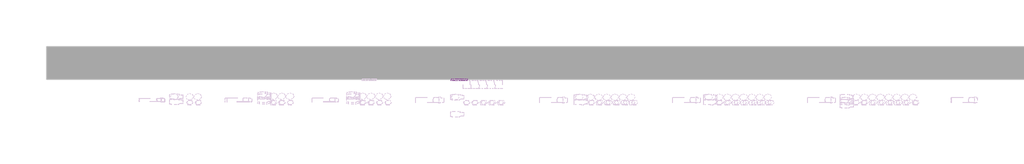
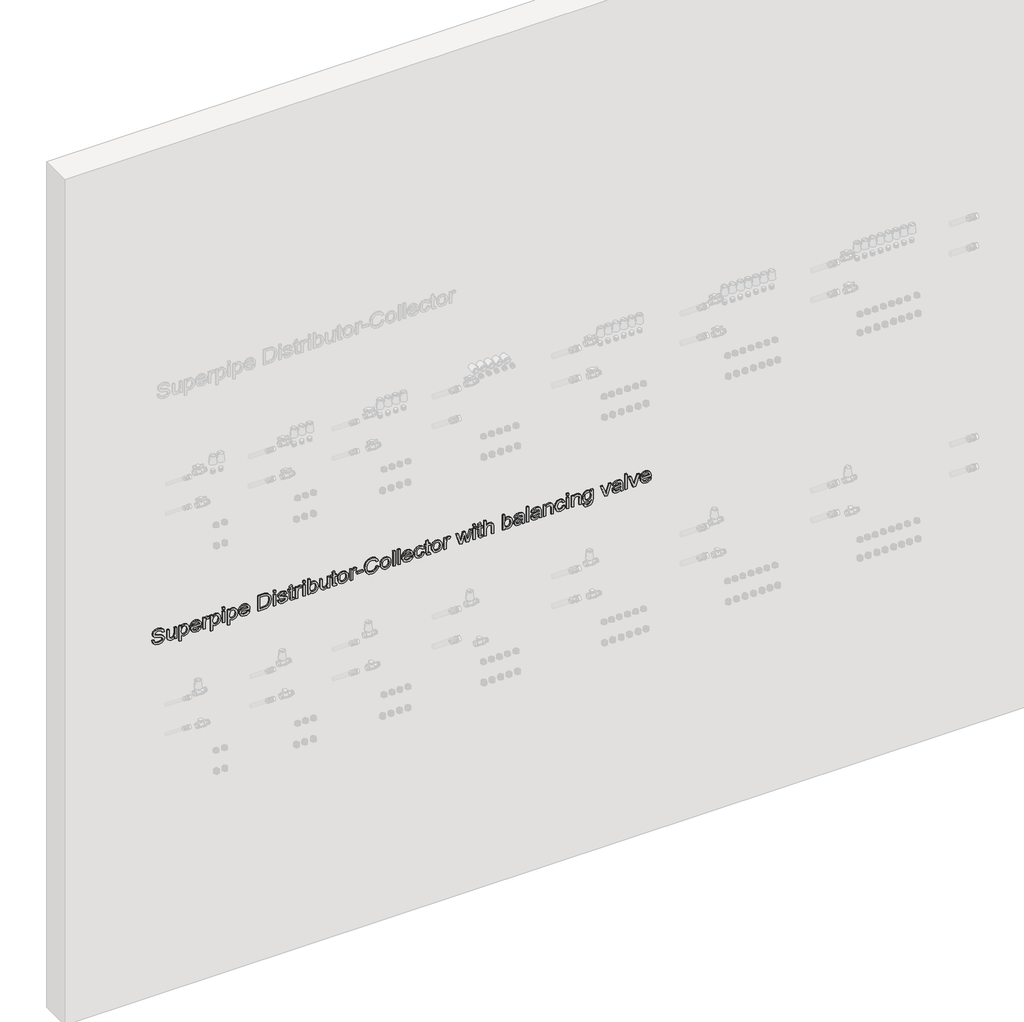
# One storey, part 11 of 26: 1 proxy.
"""IFC4 building model written with IfcOpenShell, lengths in millimetres."""

import ifcopenshell
import ifcopenshell.guid

model = None  # the IFC model being written
_history = None  # IfcOwnerHistory: only IFC2X3 demands one
_inside = {}  # id of a spatial element -> (the spatial element, [elements in it])
_under = {}  # id of a project, library or spatial element -> (it, [spatial elements below it])
_declared = {}  # id of a project -> (the project, [libraries it declares])
_typed = {}  # id of a type object -> (the type object, [elements of that type])
_made_of = {}  # id of a material, layer set ... -> (it, [elements and type objects made of it])


def new_model(schema):
    """Start an empty IFC model of exactly this schema.

    Asked for "IFC4X3", IfcOpenShell would pick the latest addendum, in which some entities
    have other attributes; the version numbers below select the first issue.
    IFC2X3 requires an IfcOwnerHistory on every rooted entity: one is made here for all.
    """
    global model, _history
    if schema == "IFC4X3":
        model = ifcopenshell.file(schema_version=(4, 3, 0, 0))
    else:
        model = ifcopenshell.file(schema=schema)
    _inside.clear()
    _under.clear()
    _declared.clear()
    _typed.clear()
    _made_of.clear()
    _history = None
    if model.schema == "IFC2X3":
        org = make("IfcOrganization", Name="unknown")
        user = make(
            "IfcPersonAndOrganization",
            ThePerson=make("IfcPerson", FamilyName="unknown"),
            TheOrganization=org,
        )
        app = make(
            "IfcApplication",
            ApplicationDeveloper=org,
            Version="unknown",
            ApplicationFullName="unknown",
            ApplicationIdentifier="unknown",
        )
        _history = make(
            "IfcOwnerHistory",
            OwningUser=user,
            OwningApplication=app,
            ChangeAction="ADDED",
            CreationDate=0,
        )
    return model


def make(cls, **values):
    """One entity of the class cls with the attributes given. An attribute that is None is left unset."""
    return model.create_entity(
        cls, **{name: value for name, value in values.items() if value is not None}
    )


def rooted(cls, **values):
    """An entity with a GlobalId (a new one), such as an element, a storey or a relation."""
    return make(cls, GlobalId=ifcopenshell.guid.new(), OwnerHistory=_history, **values)


def si_unit(unit_type, name, prefix=None):
    """IfcSIUnit, for example si_unit("LENGTHUNIT", "METRE", prefix="MILLI")."""
    return make("IfcSIUnit", UnitType=unit_type, Prefix=prefix, Name=name)


def assignment(units):
    """IfcUnitAssignment: the units of a project."""
    return None if units is None else make("IfcUnitAssignment", Units=units)


def point(xyz):
    """IfcCartesianPoint."""
    return None if xyz is None else make("IfcCartesianPoint", Coordinates=xyz)


def direction(xyz):
    """IfcDirection."""
    return None if xyz is None else make("IfcDirection", DirectionRatios=xyz)


def frame(location, z_axis=None, x_axis=None):
    """IfcAxis2Placement3D, a coordinate frame: its origin and axes. An axis left out is left unset."""
    return make(
        "IfcAxis2Placement3D",
        Location=point(location),
        Axis=direction(z_axis),
        RefDirection=direction(x_axis),
    )


def origin():
    """The frame at (0, 0, 0) with its axes left unset."""
    return frame((0.0, 0.0, 0.0))


def place(relative_to, where):
    """IfcLocalPlacement: puts the frame where relative to a parent placement (None: the world)."""
    return make(
        "IfcLocalPlacement", PlacementRelTo=relative_to, RelativePlacement=where
    )


def context(
    kind, dimensions, precision=None, world=None, true_north=None, identifier=None
):
    """IfcGeometricRepresentationContext, for example the 3D "Model" context."""
    return make(
        "IfcGeometricRepresentationContext",
        ContextIdentifier=identifier,
        ContextType=kind,
        CoordinateSpaceDimension=dimensions,
        Precision=precision,
        WorldCoordinateSystem=world,
        TrueNorth=true_north,
    )


def project(units=None, contexts=None):
    """IfcProject with its units and contexts."""
    return rooted(
        "IfcProject",
        Name="project",
        RepresentationContexts=contexts,
        UnitsInContext=assignment(units),
    )


def spatial(cls, under=None, at=None, **own):
    """A site, building, storey or space (cls), placed at a placement, below another one or the project."""
    s = rooted(cls, ObjectPlacement=at, **own)
    if under is not None:
        _under.setdefault(under.id(), (under, []))[1].append(s)
    return s


def polyline(points):
    """IfcPolyline through the points."""
    return make("IfcPolyline", Points=[point(p) for p in points])


def outline(outer, holes=None, kind="AREA"):
    """IfcArbitraryClosedProfileDef: a profile drawn as a closed curve; with holes, ...WithVoids."""
    if holes is None:
        return make("IfcArbitraryClosedProfileDef", ProfileType=kind, OuterCurve=outer)
    return make(
        "IfcArbitraryProfileDefWithVoids",
        ProfileType=kind,
        OuterCurve=outer,
        InnerCurves=holes,
    )


def extrude(swept, where, along, depth):
    """IfcExtrudedAreaSolid: the profile swept, set in the frame where, extruded along a direction by depth."""
    return make(
        "IfcExtrudedAreaSolid",
        SweptArea=swept,
        Position=where,
        ExtrudedDirection=direction(along),
        Depth=depth,
    )


def shape(context_of_items, identifier, shape_type, items):
    """IfcShapeRepresentation: the items that make up one representation, for example the "Body"."""
    return make(
        "IfcShapeRepresentation",
        ContextOfItems=context_of_items,
        RepresentationIdentifier=identifier,
        RepresentationType=shape_type,
        Items=items,
    )


def made_of(thing, what):
    """Note that an element or type object is made of a material, layer set ...; save() writes the relation."""
    if what is not None:
        _made_of.setdefault(what.id(), (what, []))[1].append(thing)
    return thing


def element(
    cls,
    number,
    at=None,
    inside=None,
    cuts=None,
    type_object=None,
    material=None,
    context=None,
    identifier="Body",
    shape_type=None,
    held_by="IfcProductDefinitionShape",
    body=None,
    shapes=None,
    **own,
):
    """One element of the class cls, such as IfcWall. Its Tag is "e" and its number.

    at: its placement. inside: the storey or other place that contains it. cuts: it is an
    opening in that element (IfcRelVoidsElement). A single representation is given by context,
    identifier, shape_type and body (its items); several are given by shapes. held_by: the class
    of the entity that holds the representations. save() writes the other relations.
    """
    e = rooted(cls, Tag="e%d" % number, ObjectPlacement=at, **own)
    if body is not None:
        shapes = [shape(context, identifier, shape_type, body)]
    if shapes is not None:
        e.Representation = make(held_by, Representations=shapes)
    if inside is not None:
        _inside.setdefault(inside.id(), (inside, []))[1].append(e)
    if cuts is not None:
        rooted(
            "IfcRelVoidsElement", RelatingBuildingElement=cuts, RelatedOpeningElement=e
        )
    if type_object is not None:
        _typed.setdefault(type_object.id(), (type_object, []))[1].append(e)
    return made_of(e, material)


def aggregate(whole, parts):
    """IfcRelAggregates: a whole, such as a stair, and the parts it consists of."""
    return rooted("IfcRelAggregates", RelatingObject=whole, RelatedObjects=parts)


def save(model, path):
    """Write the relations noted so far, then the file.

    IfcRelAggregates (storeys below a building ...), IfcRelContainedInSpatialStructure (elements
    in a storey), IfcRelDefinesByType, IfcRelAssociatesMaterial and IfcRelDeclares: one each for
    every whole, place, type object, material and project.
    """
    for whole, parts in _under.values():
        aggregate(whole, parts)
    for where, things in _inside.values():
        rooted(
            "IfcRelContainedInSpatialStructure",
            RelatedElements=things,
            RelatingStructure=where,
        )
    for kind, things in _typed.values():
        rooted("IfcRelDefinesByType", RelatedObjects=things, RelatingType=kind)
    for what, things in _made_of.values():
        rooted("IfcRelAssociatesMaterial", RelatedObjects=things, RelatingMaterial=what)
    for by, libraries in _declared.values():
        rooted("IfcRelDeclares", RelatingContext=by, RelatedDefinitions=libraries)
    model.write(path)


model = new_model("IFC4")

# Units and contexts
model_context = context("Model", 3, world=origin())
ifc_project = project(units=[si_unit("LENGTHUNIT", "METRE", prefix="MILLI")], contexts=[model_context])

# Site, building, storey
site = spatial("IfcSite", under=ifc_project)
building = spatial("IfcBuilding", under=site)
storey = spatial("IfcBuildingStorey", under=building, Name="Superpipe UFH", Elevation=0.0)

# Proxy
placement = place(None, origin())
element("IfcBuildingElementProxy", 1, Name="600mm Arial 2", ObjectType="600mm Arial 2", at=placement, inside=storey, context=model_context, shape_type="SweptSolid", body=[
    extrude(outline(polyline([(2402.2660737, 943.6052989), (2383.0871591, 949.025427), (2370.3829675, 963.2134093), (2366.1645873, 985.6419483), (2370.0763992, 1004.6369219), (2381.0392826, 1017.5863682), (2396.0611307, 1022.0867913), (2410.2613758, 1018.1749794), (2420.4394443, 1006.0226108), (2426.7424891, 983.8025383), (2433.7567725, 963.2992484), (2442.4633131, 959.3015974), (2452.8866363, 964.9424547), (2457.2031183, 982.9196215), (2452.8375853, 1000.8477374), (2447.42972, 1005.6547288), (2439.93719, 1007.9601226), (2439.93719, 1020.5171614), (2455.658014, 1015.5384917), (2466.179439, 1002.2947399), (2469.7601571, 982.4291122), (2466.3388546, 963.8142832), (2456.3079388, 951.0978289), (2442.0954311, 946.7445586), (2429.6119687, 950.2639631), (2420.267766, 960.9448037), (2414.0750858, 980.6264904), (2409.2803571, 998.9102256), (2403.5781862, 1007.4450878), (2395.7422997, 1009.5297525), (2387.317802, 1006.7461121), (2381.0147571, 998.2725634), (2378.721626, 985.1514389), (2381.7505211, 970.0928026), (2389.6967722, 960.2090397), (2402.2660737, 956.1623377), (2402.2660737, 943.6052989)])), frame((0.0, -1221.7394303, 0.0), z_axis=(0.0, 1.0, 0.0), x_axis=(0.0, 0.0, 1.0)), (0.0, 0.0, 1.0), 10.0),
    extrude(outline(polyline([(2367.7342171, 1086.4416149), (2367.7342171, 1098.9986537), (2441.5068199, 1098.9986537), (2441.5068199, 1086.4416149), (2403.1244651, 1086.4416149), (2389.1326865, 1084.4060012), (2381.5175292, 1077.477557), (2378.721626, 1066.9929201), (2381.4562155, 1057.6364547), (2388.973271, 1052.6700478), (2401.7755644, 1051.9097583), (2441.5068199, 1051.9097583), (2441.5068199, 1039.3527196), (2395.864927, 1039.3527196), (2384.190805, 1040.0884835), (2374.9447042, 1043.8286172), (2368.6661848, 1051.971072), (2366.1645873, 1063.780084), (2369.7269113, 1076.6069029), (2380.4138832, 1086.4416149), (2367.7342171, 1086.4416149)])), frame((0.0, -1221.7394303, 0.0), z_axis=(0.0, 1.0, 0.0), x_axis=(0.0, 0.0, 1.0)), (0.0, 0.0, 1.0), 10.0),
    extrude(outline(polyline([(2339.4808799, 1116.264582), (2339.4808799, 1128.8216208), (2377.5444037, 1128.8216208), (2369.3896861, 1136.7801346), (2366.1645873, 1147.7062299), (2370.9838414, 1163.5864693), (2384.8407299, 1175.088913), (2405.1846042, 1179.0497759), (2424.5351972, 1175.5426342), (2438.2204074, 1165.1438364), (2443.0764497, 1149.2268088), (2439.6060962, 1137.5036359), (2429.1950358, 1128.8216208), (2441.5068199, 1128.8216208), (2441.5068199, 1116.264582), (2339.4808799, 1116.264582)]), holes=[polyline([(2404.0319073, 1128.8216208), (2415.4209207, 1130.271689), (2423.7381195, 1134.6218936), (2428.8240881, 1140.8544277), (2430.519411, 1147.9514845), (2428.9252557, 1155.0209502), (2424.1427897, 1161.0235581), (2416.1597504, 1165.1254423), (2404.963875, 1166.4927371), (2393.2836217, 1165.0917198), (2385.1227728, 1160.888668), (2380.3219127, 1154.7235789), (2378.721626, 1147.4364497), (2380.2667304, 1140.2658165), (2384.9020436, 1134.2540116), (2392.7747183, 1130.1797185), (2404.0319073, 1128.8216208)])]), frame((0.0, -1221.7394303, 0.0), z_axis=(0.0, 1.0, 0.0), x_axis=(0.0, 0.0, 1.0)), (0.0, 0.0, 1.0), 10.0),
    extrude(outline(polyline([(2389.709035, 1244.8270766), (2381.3458509, 1236.7336727), (2378.721626, 1224.4218886), (2380.1379717, 1215.5344727), (2384.3870088, 1208.2473435), (2391.2970589, 1203.1981632), (2400.6964439, 1201.0245937), (2400.6964439, 1257.4576918), (2404.0809582, 1257.5312682), (2420.5436775, 1255.1492322), (2432.8493303, 1248.0031245), (2440.5196699, 1237.1046204), (2443.0764497, 1223.4653954), (2440.5135385, 1209.3877777), (2432.8248048, 1198.2041651), (2420.4946266, 1190.9017075), (2404.0073818, 1188.4675549), (2388.0566317, 1190.877182), (2376.1096639, 1198.1060632), (2368.6508564, 1209.44296), (2366.1645873, 1224.1766339), (2367.6054584, 1236.0622881), (2371.9280719, 1245.6241543), (2378.8626475, 1252.702817), (2388.1394051, 1257.1388607), (2389.709035, 1244.8270766)]), holes=[polyline([(2413.2534827, 1201.0245937), (2420.3321454, 1203.0877986), (2425.8227842, 1207.9530379), (2430.519411, 1223.4163445), (2429.047883, 1232.6256571), (2424.633299, 1239.9465088), (2413.2534827, 1244.9742294), (2413.2534827, 1201.0245937)])]), frame((0.0, -1221.7394303, 0.0), z_axis=(0.0, 1.0, 0.0), x_axis=(0.0, 0.0, 1.0)), (0.0, 0.0, 1.0), 10.0),
    extrude(outline(polyline([(2367.7342171, 1270.0883069), (2367.7342171, 1282.6453457), (2406.5089794, 1282.6453457), (2421.1752083, 1284.6809594), (2428.0423389, 1289.2059079), (2430.519411, 1296.3060305), (2427.944237, 1305.1351983), (2439.2014261, 1309.3290531), (2443.0764497, 1296.7229634), (2440.6484286, 1288.8748142), (2430.5929874, 1281.0757159), (2441.5068199, 1281.0757159), (2441.5068199, 1270.0883069), (2367.7342171, 1270.0883069)])), frame((0.0, -1221.7394303, 0.0), z_axis=(0.0, 1.0, 0.0), x_axis=(0.0, 0.0, 1.0)), (0.0, 0.0, 1.0), 10.0),
    extrude(outline(polyline([(2339.4808799, 1317.1772023), (2339.4808799, 1329.7342411), (2377.5444037, 1329.7342411), (2369.3896861, 1337.6927549), (2366.1645873, 1348.6188502), (2370.9838414, 1364.4990896), (2384.8407299, 1376.0015333), (2405.1846042, 1379.9623962), (2424.5351972, 1376.4552545), (2438.2204074, 1366.0564567), (2443.0764497, 1350.1394291), (2439.6060962, 1338.4162562), (2429.1950358, 1329.7342411), (2441.5068199, 1329.7342411), (2441.5068199, 1317.1772023), (2339.4808799, 1317.1772023)]), holes=[polyline([(2404.0319073, 1329.7342411), (2415.4209207, 1331.1843093), (2423.7381195, 1335.5345139), (2428.8240881, 1341.767048), (2430.519411, 1348.8641048), (2428.9252557, 1355.9335705), (2424.1427897, 1361.9361784), (2416.1597504, 1366.0380626), (2404.963875, 1367.4053574), (2393.2836217, 1366.0043401), (2385.1227728, 1361.8012883), (2380.3219127, 1355.6361992), (2378.721626, 1348.34907), (2380.2667304, 1341.1784368), (2384.9020436, 1335.1666319), (2392.7747183, 1331.0923388), (2404.0319073, 1329.7342411)])]), frame((0.0, -1221.7394303, 0.0), z_axis=(0.0, 1.0, 0.0), x_axis=(0.0, 0.0, 1.0)), (0.0, 0.0, 1.0), 10.0),
    extrude(outline(polyline([(1406.6461035, -1221.7394303), (1394.0890648, -1221.7394303), (1394.0890648, -1211.7394303), (1406.6461035, -1211.7394303), (1406.6461035, -1221.7394303)])), frame((0.0, 0.0, 2455.6334885), z_axis=(0.0, 0.0, 1.0), x_axis=(1.0, 0.0, 0.0)), (0.0, 0.0, 1.0), 12.5570388),
    extrude(outline(polyline([(1406.6461035, -1221.7394303), (1394.0890648, -1221.7394303), (1394.0890648, -1211.7394303), (1406.6461035, -1211.7394303), (1406.6461035, -1221.7394303)])), frame((0.0, 0.0, 2367.7342171), z_axis=(0.0, 0.0, 1.0), x_axis=(1.0, 0.0, 0.0)), (0.0, 0.0, 1.0), 73.7726028),
    extrude(outline(polyline([(2339.4808799, 1425.4816617), (2339.4808799, 1438.0387005), (2377.5444037, 1438.0387005), (2369.3896861, 1445.9972143), (2366.1645873, 1456.9233096), (2370.9838414, 1472.803549), (2384.8407299, 1484.3059927), (2405.1846042, 1488.2668555), (2424.5351972, 1484.7597139), (2438.2204074, 1474.3609161), (2443.0764497, 1458.4438885), (2439.6060962, 1446.7207156), (2429.1950358, 1438.0387005), (2441.5068199, 1438.0387005), (2441.5068199, 1425.4816617), (2339.4808799, 1425.4816617)]), holes=[polyline([(2404.0319073, 1438.0387005), (2415.4209207, 1439.4887687), (2423.7381195, 1443.8389733), (2428.8240881, 1450.0715074), (2430.519411, 1457.1685642), (2428.9252557, 1464.2380299), (2424.1427897, 1470.2406378), (2416.1597504, 1474.342522), (2404.963875, 1475.7098168), (2393.2836217, 1474.3087995), (2385.1227728, 1470.1057477), (2380.3219127, 1463.9406586), (2378.721626, 1456.6535294), (2380.2667304, 1449.4828962), (2384.9020436, 1443.4710913), (2392.7747183, 1439.3967982), (2404.0319073, 1438.0387005)])]), frame((0.0, -1221.7394303, 0.0), z_axis=(0.0, 1.0, 0.0), x_axis=(0.0, 0.0, 1.0)), (0.0, 0.0, 1.0), 10.0),
    extrude(outline(polyline([(2389.709035, 1554.0441563), (2381.3458509, 1545.9507524), (2378.721626, 1533.6389683), (2380.1379717, 1524.7515524), (2384.3870088, 1517.4644232), (2391.2970589, 1512.4152428), (2400.6964439, 1510.2416734), (2400.6964439, 1566.6747714), (2404.0809582, 1566.7483478), (2420.5436775, 1564.3663119), (2432.8493303, 1557.2202042), (2440.5196699, 1546.3217001), (2443.0764497, 1532.6824751), (2440.5135385, 1518.6048574), (2432.8248048, 1507.4212448), (2420.4946266, 1500.1187872), (2404.0073818, 1497.6846346), (2388.0566317, 1500.0942617), (2376.1096639, 1507.3231429), (2368.6508564, 1518.6600397), (2366.1645873, 1533.3937136), (2367.6054584, 1545.2793677), (2371.9280719, 1554.8412339), (2378.8626475, 1561.9198967), (2388.1394051, 1566.3559404), (2389.709035, 1554.0441563)]), holes=[polyline([(2413.2534827, 1510.2416734), (2420.3321454, 1512.3048782), (2425.8227842, 1517.1701176), (2430.519411, 1532.6334242), (2429.047883, 1541.8427368), (2424.633299, 1549.1635885), (2413.2534827, 1554.1913091), (2413.2534827, 1510.2416734)])]), frame((0.0, -1221.7394303, 0.0), z_axis=(0.0, 1.0, 0.0), x_axis=(0.0, 0.0, 1.0)), (0.0, 0.0, 1.0), 10.0),
    extrude(outline(polyline([(2367.7342171, 1620.1157626), (2367.7342171, 1656.4379783), (2369.4509998, 1672.5879979), (2374.4909831, 1684.5932136), (2383.6021938, 1693.765738), (2398.2316345, 1700.6328686), (2418.5019325, 1703.3061445), (2442.3897367, 1699.3575444), (2459.5575631, 1687.4626932), (2466.7435248, 1672.6983625), (2468.1905273, 1654.7702466), (2468.1905273, 1620.1157626), (2367.7342171, 1620.1157626)]), holes=[polyline([(2380.2912559, 1632.6728014), (2455.6334885, 1632.6728014), (2455.6334885, 1654.5495174), (2453.6224003, 1672.3550059), (2442.4878385, 1685.3902913), (2432.3833464, 1689.4094021), (2418.6981362, 1690.7491057), (2399.7031625, 1688.0145162), (2387.2319629, 1680.3748334), (2382.1061404, 1671.0551562), (2380.2912559, 1654.8928739), (2380.2912559, 1632.6728014)])]), frame((0.0, -1221.7394303, 0.0), z_axis=(0.0, 1.0, 0.0), x_axis=(0.0, 0.0, 1.0)), (0.0, 0.0, 1.0), 10.0),
    extrude(outline(polyline([(1731.5594817, -1221.7394303), (1719.0024429, -1221.7394303), (1719.0024429, -1211.7394303), (1731.5594817, -1211.7394303), (1731.5594817, -1221.7394303)])), frame((0.0, 0.0, 2455.6334885), z_axis=(0.0, 0.0, 1.0), x_axis=(1.0, 0.0, 0.0)), (0.0, 0.0, 1.0), 12.5570388),
    extrude(outline(polyline([(1731.5594817, -1221.7394303), (1719.0024429, -1221.7394303), (1719.0024429, -1211.7394303), (1731.5594817, -1211.7394303), (1731.5594817, -1221.7394303)])), frame((0.0, 0.0, 2367.7342171), z_axis=(0.0, 0.0, 1.0), x_axis=(1.0, 0.0, 0.0)), (0.0, 0.0, 1.0), 73.7726028),
    extrude(outline(polyline([(2389.709035, 1745.6861503), (2379.4696528, 1749.1319783), (2372.0997501, 1755.3001331), (2367.648378, 1764.5401026), (2366.1645873, 1777.2013746), (2369.2425333, 1792.7505202), (2377.9613366, 1803.2596825), (2389.9788151, 1806.9017143), (2400.8926476, 1803.7992428), (2407.5880999, 1795.239855), (2413.4987373, 1776.8089671), (2416.1720132, 1765.9932364), (2418.9433908, 1761.3088724), (2422.5976853, 1759.8128189), (2428.1404407, 1763.4180625), (2430.519411, 1775.435541), (2428.0300761, 1786.4842636), (2421.1016319, 1791.2054158), (2422.6712617, 1803.7624546), (2433.9407135, 1799.4459725), (2440.6116404, 1789.7338879), (2443.0764497, 1774.4545223), (2441.5436081, 1763.6510544), (2437.8279999, 1755.6680151), (2430.6788265, 1749.512123), (2421.3223611, 1747.2557801), (2411.1933435, 1750.063946), (2404.0196446, 1758.3167655), (2397.8760153, 1777.2259), (2394.2952972, 1790.1508208), (2388.6544399, 1794.3446755), (2381.6892075, 1790.1753462), (2378.721626, 1777.3730528), (2381.9589876, 1764.0557246), (2391.2786648, 1758.2431891), (2389.709035, 1745.6861503)])), frame((0.0, -1221.7394303, 0.0), z_axis=(0.0, 1.0, 0.0), x_axis=(0.0, 0.0, 1.0)), (0.0, 0.0, 1.0), 10.0),
    extrude(outline(polyline([(2378.2065912, 1847.7120903), (2378.721626, 1842.2429113), (2379.5677546, 1837.9632174), (2381.8608857, 1835.8172391), (2388.3356089, 1835.1550515), (2428.9497811, 1835.1550515), (2428.9497811, 1847.7120903), (2441.5068199, 1847.7120903), (2441.5068199, 1835.1550515), (2466.8171012, 1835.1550515), (2459.4349358, 1822.5980128), (2441.5068199, 1822.5980128), (2441.5068199, 1813.1802337), (2428.9497811, 1813.1802337), (2428.9497811, 1822.5980128), (2387.9677269, 1822.5980128), (2373.7184309, 1824.1185917), (2368.2492519, 1829.3670415), (2366.1645873, 1839.8884665), (2367.3663351, 1849.2817201), (2378.2065912, 1847.7120903)])), frame((0.0, -1221.7394303, 0.0), z_axis=(0.0, 1.0, 0.0), x_axis=(0.0, 0.0, 1.0)), (0.0, 0.0, 1.0), 10.0),
    extrude(outline(polyline([(2367.7342171, 1860.2691291), (2367.7342171, 1872.8261678), (2406.5089794, 1872.8261678), (2421.1752083, 1874.8617815), (2428.0423389, 1879.3867301), (2430.519411, 1886.4868526), (2427.944237, 1895.3160205), (2439.2014261, 1899.5098752), (2443.0764497, 1886.9037855), (2440.6484286, 1879.0556363), (2430.5929874, 1871.256538), (2441.5068199, 1871.256538), (2441.5068199, 1860.2691291), (2367.7342171, 1860.2691291)])), frame((0.0, -1221.7394303, 0.0), z_axis=(0.0, 1.0, 0.0), x_axis=(0.0, 0.0, 1.0)), (0.0, 0.0, 1.0), 10.0),
    extrude(outline(polyline([(1919.9150632, -1221.7394303), (1907.3580244, -1221.7394303), (1907.3580244, -1211.7394303), (1919.9150632, -1211.7394303), (1919.9150632, -1221.7394303)])), frame((0.0, 0.0, 2367.7342171), z_axis=(0.0, 0.0, 1.0), x_axis=(1.0, 0.0, 0.0)), (0.0, 0.0, 1.0), 73.7726028),
    extrude(outline(polyline([(1919.9150632, -1221.7394303), (1907.3580244, -1221.7394303), (1907.3580244, -1211.7394303), (1919.9150632, -1211.7394303), (1919.9150632, -1221.7394303)])), frame((0.0, 0.0, 2455.6334885), z_axis=(0.0, 0.0, 1.0), x_axis=(1.0, 0.0, 0.0)), (0.0, 0.0, 1.0), 12.5570388),
    extrude(outline(polyline([(2367.7342171, 1951.3076601), (2379.4819155, 1951.3076601), (2369.4939193, 1959.7873401), (2366.1645873, 1970.9525587), (2368.7458926, 1982.6542718), (2376.4898086, 1992.5472318), (2388.9610082, 1999.2886694), (2405.7241645, 2001.5358152), (2420.6969617, 1999.3653114), (2432.6531265, 1993.3688349), (2440.3418602, 1983.6076993), (2443.0764497, 1971.0261351), (2440.0414233, 1960.1000398), (2430.9363439, 1951.3076601), (2468.1905273, 1951.3076601), (2468.1905273, 1938.7506214), (2367.7342171, 1938.7506214), (2367.7342171, 1951.3076601)]), holes=[polyline([(2405.1355533, 1951.3076601), (2416.018729, 1952.7240058), (2423.9956369, 1956.9730429), (2428.8884675, 1963.1657231), (2430.519411, 1970.4129984), (2428.9436498, 1977.5468434), (2424.2163661, 1983.5463856), (2416.1842759, 1987.6206787), (2404.6940949, 1988.9787764), (2393.3694608, 1987.5624308), (2385.2454001, 1983.3133937), (2380.3525696, 1977.1207135), (2378.721626, 1969.8734382), (2380.9350494, 1961.3201818), (2387.5753194, 1954.7412254), (2405.1355533, 1951.3076601)])]), frame((0.0, -1221.7394303, 0.0), z_axis=(0.0, 1.0, 0.0), x_axis=(0.0, 0.0, 1.0)), (0.0, 0.0, 1.0), 10.0),
    extrude(outline(polyline([(2367.7342171, 2062.7513792), (2367.7342171, 2075.308418), (2441.5068199, 2075.308418), (2441.5068199, 2062.7513792), (2403.1244651, 2062.7513792), (2389.1326865, 2060.7157655), (2381.5175292, 2053.7873213), (2378.721626, 2043.3026844), (2381.4562155, 2033.946219), (2388.973271, 2028.9798121), (2401.7755644, 2028.2195226), (2441.5068199, 2028.2195226), (2441.5068199, 2015.6624838), (2395.864927, 2015.6624838), (2384.190805, 2016.3982478), (2374.9447042, 2020.1383814), (2368.6661848, 2028.2808363), (2366.1645873, 2040.0898483), (2369.7269113, 2052.9166672), (2380.4138832, 2062.7513792), (2367.7342171, 2062.7513792)])), frame((0.0, -1221.7394303, 0.0), z_axis=(0.0, 1.0, 0.0), x_axis=(0.0, 0.0, 1.0)), (0.0, 0.0, 1.0), 10.0),
    extrude(outline(polyline([(2378.2065912, 2119.2580537), (2378.721626, 2113.7888747), (2379.5677546, 2109.5091808), (2381.8608857, 2107.3632025), (2388.3356089, 2106.7010149), (2428.9497811, 2106.7010149), (2428.9497811, 2119.2580537), (2441.5068199, 2119.2580537), (2441.5068199, 2106.7010149), (2466.8171012, 2106.7010149), (2459.4349358, 2094.1439761), (2441.5068199, 2094.1439761), (2441.5068199, 2084.7261971), (2428.9497811, 2084.7261971), (2428.9497811, 2094.1439761), (2387.9677269, 2094.1439761), (2373.7184309, 2095.664555), (2368.2492519, 2100.9130048), (2366.1645873, 2111.4344299), (2367.3663351, 2120.8276835), (2378.2065912, 2119.2580537)])), frame((0.0, -1221.7394303, 0.0), z_axis=(0.0, 1.0, 0.0), x_axis=(0.0, 0.0, 1.0)), (0.0, 0.0, 1.0), 10.0),
    extrude(outline(polyline([(2404.6205185, 2128.6758327), (2388.1639306, 2130.9536354), (2376.0728757, 2137.7870435), (2368.6416594, 2148.3115342), (2366.1645873, 2161.662585), (2370.6650103, 2178.6709959), (2383.3078882, 2190.5290589), (2405.6505881, 2194.6002863), (2421.2886386, 2192.2979581), (2433.1313731, 2185.3909737), (2440.5901806, 2174.8542202), (2443.0764497, 2161.662585), (2441.0347047, 2149.6083183), (2434.9094694, 2139.5406143), (2422.407613, 2131.3920281), (2404.6205185, 2128.6758327)]), holes=[polyline([(2404.645044, 2141.2328715), (2416.0034006, 2142.6860054), (2424.081476, 2147.045407), (2428.9099272, 2153.6059693), (2430.519411, 2161.662585), (2428.9037959, 2169.6364272), (2424.0569506, 2176.1939238), (2416.0708456, 2180.5809166), (2405.0374514, 2182.0432475), (2393.4246431, 2180.5901136), (2385.2208746, 2176.230712), (2380.3464382, 2169.6824125), (2378.721626, 2161.662585), (2380.3372411, 2153.6059693), (2385.1840864, 2147.045407), (2393.280556, 2142.6860054), (2404.645044, 2141.2328715)])]), frame((0.0, -1221.7394303, 0.0), z_axis=(0.0, 1.0, 0.0), x_axis=(0.0, 0.0, 1.0)), (0.0, 0.0, 1.0), 10.0),
    extrude(outline(polyline([(2367.7342171, 2208.7269549), (2367.7342171, 2221.2839937), (2406.5089794, 2221.2839937), (2421.1752083, 2223.3196074), (2428.0423389, 2227.8445559), (2430.519411, 2234.9446784), (2427.944237, 2243.7738463), (2439.2014261, 2247.967701), (2443.0764497, 2235.3616113), (2440.6484286, 2227.5134621), (2430.5929874, 2219.7143638), (2441.5068199, 2219.7143638), (2441.5068199, 2208.7269549), (2367.7342171, 2208.7269549)])), frame((0.0, -1221.7394303, 0.0), z_axis=(0.0, 1.0, 0.0), x_axis=(0.0, 0.0, 1.0)), (0.0, 0.0, 1.0), 10.0),
    extrude(outline(polyline([(2288.778077, -1221.7394303), (2249.5373309, -1221.7394303), (2249.5373309, -1211.7394303), (2288.778077, -1211.7394303), (2288.778077, -1221.7394303)])), frame((0.0, 0.0, 2397.5571842), z_axis=(0.0, 0.0, 1.0), x_axis=(1.0, 0.0, 0.0)), (0.0, 0.0, 1.0), 12.5570388),
    extrude(outline(polyline([(2403.4432961, 2375.1077186), (2392.6888791, 2371.0456882), (2384.9510945, 2364.4514035), (2380.2789932, 2355.7172717), (2378.721626, 2345.2357006), (2383.2956255, 2327.9084586), (2397.1157258, 2316.1117093), (2418.7471871, 2312.3225247), (2437.411067, 2315.5230981), (2451.8320412, 2326.6208716), (2457.2031183, 2346.2657702), (2452.3593387, 2363.2373929), (2436.9205577, 2373.5380887), (2439.9126646, 2386.0951275), (2452.5187543, 2380.5493064), (2461.9365334, 2371.9071452), (2467.8042512, 2360.5242632), (2469.7601571, 2346.7562795), (2468.2487753, 2334.137927), (2463.7146297, 2322.6232206), (2456.2680849, 2312.9142016), (2446.0195057, 2305.7129116), (2433.3704964, 2301.2523424), (2418.7226617, 2299.765486), (2391.867276, 2305.0261985), (2380.8369475, 2311.4886589), (2372.7619377, 2320.354615), (2367.8139249, 2331.921438), (2366.1645873, 2346.4864994), (2368.3442881, 2360.8338972), (2374.8833906, 2372.7777993), (2385.5734282, 2381.8706159), (2400.2059346, 2387.6647573), (2403.4432961, 2375.1077186)])), frame((0.0, -1221.7394303, 0.0), z_axis=(0.0, 1.0, 0.0), x_axis=(0.0, 0.0, 1.0)), (0.0, 0.0, 1.0), 10.0),
    extrude(outline(polyline([(2404.6205185, 2400.2217961), (2388.1639306, 2402.4995988), (2376.0728757, 2409.3330069), (2368.6416594, 2419.8574976), (2366.1645873, 2433.2085484), (2370.6650103, 2450.2169593), (2383.3078882, 2462.0750222), (2405.6505881, 2466.1462497), (2421.2886386, 2463.8439215), (2433.1313731, 2456.936937), (2440.5901806, 2446.4001836), (2443.0764497, 2433.2085484), (2441.0347047, 2421.1542816), (2434.9094694, 2411.0865777), (2422.407613, 2402.9379915), (2404.6205185, 2400.2217961)]), holes=[polyline([(2404.645044, 2412.7788349), (2416.0034006, 2414.2319688), (2424.081476, 2418.5913704), (2428.9099272, 2425.1519327), (2430.519411, 2433.2085484), (2428.9037959, 2441.1823906), (2424.0569506, 2447.7398872), (2416.0708456, 2452.12688), (2405.0374514, 2453.5892109), (2393.4246431, 2452.136077), (2385.2208746, 2447.7766754), (2380.3464382, 2441.2283758), (2378.721626, 2433.2085484), (2380.3372411, 2425.1519327), (2385.1840864, 2418.5913704), (2393.280556, 2414.2319688), (2404.645044, 2412.7788349)])]), frame((0.0, -1221.7394303, 0.0), z_axis=(0.0, 1.0, 0.0), x_axis=(0.0, 0.0, 1.0)), (0.0, 0.0, 1.0), 10.0),
    extrude(outline(polyline([(2492.829957, -1221.7394303), (2480.2729183, -1221.7394303), (2480.2729183, -1211.7394303), (2492.829957, -1211.7394303), (2492.829957, -1221.7394303)])), frame((0.0, 0.0, 2367.7342171), z_axis=(0.0, 0.0, 1.0), x_axis=(1.0, 0.0, 0.0)), (0.0, 0.0, 1.0), 100.4563101),
    extrude(outline(polyline([(2524.222554, -1221.7394303), (2511.6655152, -1221.7394303), (2511.6655152, -1211.7394303), (2524.222554, -1211.7394303), (2524.222554, -1221.7394303)])), frame((0.0, 0.0, 2367.7342171), z_axis=(0.0, 0.0, 1.0), x_axis=(1.0, 0.0, 0.0)), (0.0, 0.0, 1.0), 100.4563101),
    extrude(outline(polyline([(2389.709035, 2594.7087442), (2381.3458509, 2586.6153403), (2378.721626, 2574.3035562), (2380.1379717, 2565.4161404), (2384.3870088, 2558.1290112), (2391.2970589, 2553.0798308), (2400.6964439, 2550.9062613), (2400.6964439, 2607.3393594), (2404.0809582, 2607.4129358), (2420.5436775, 2605.0308999), (2432.8493303, 2597.8847921), (2440.5196699, 2586.986288), (2443.0764497, 2573.347063), (2440.5135385, 2559.2694454), (2432.8248048, 2548.0858327), (2420.4946266, 2540.7833751), (2404.0073818, 2538.3492226), (2388.0566317, 2540.7588496), (2376.1096639, 2547.9877308), (2368.6508564, 2559.3246277), (2366.1645873, 2574.0583016), (2367.6054584, 2585.9439557), (2371.9280719, 2595.5058219), (2378.8626475, 2602.5844846), (2388.1394051, 2607.0205283), (2389.709035, 2594.7087442)]), holes=[polyline([(2413.2534827, 2550.9062613), (2420.3321454, 2552.9694662), (2425.8227842, 2557.8347056), (2430.519411, 2573.2980121), (2429.047883, 2582.5073247), (2424.633299, 2589.8281764), (2413.2534827, 2594.855897), (2413.2534827, 2550.9062613)])]), frame((0.0, -1221.7394303, 0.0), z_axis=(0.0, 1.0, 0.0), x_axis=(0.0, 0.0, 1.0)), (0.0, 0.0, 1.0), 10.0),
    extrude(outline(polyline([(2394.4179245, 2667.05887), (2382.5721243, 2661.037868), (2378.721626, 2649.2043305), (2380.2636647, 2641.1937), (2384.8897808, 2634.8691954), (2392.9249367, 2630.7581141), (2404.6940949, 2629.3877536), (2416.3069032, 2630.7887709), (2424.314468, 2634.9918227), (2428.9681752, 2641.4328233), (2430.519411, 2649.547687), (2427.3678885, 2659.6644418), (2417.9623722, 2665.4892401), (2419.532002, 2678.0462789), (2429.5261296, 2674.628042), (2436.9450831, 2668.5426607), (2441.5436081, 2660.059915), (2443.0764497, 2649.4495851), (2438.6128149, 2632.3675978), (2425.2096475, 2620.6689504), (2404.3507384, 2616.8307149), (2388.0505003, 2619.0778607), (2376.0360875, 2625.8192983), (2368.6324623, 2636.2640813), (2366.1645873, 2649.6212634), (2367.9334865, 2660.4983077), (2373.2401843, 2669.5359421), (2381.6800104, 2676.1148984), (2392.8482947, 2679.6159087), (2394.4179245, 2667.05887)])), frame((0.0, -1221.7394303, 0.0), z_axis=(0.0, 1.0, 0.0), x_axis=(0.0, 0.0, 1.0)), (0.0, 0.0, 1.0), 10.0),
    extrude(outline(polyline([(2378.2065912, 2717.287025), (2378.721626, 2711.817846), (2379.5677546, 2707.5381522), (2381.8608857, 2705.3921738), (2388.3356089, 2704.7299863), (2428.9497811, 2704.7299863), (2428.9497811, 2717.287025), (2441.5068199, 2717.287025), (2441.5068199, 2704.7299863), (2466.8171012, 2704.7299863), (2459.4349358, 2692.1729475), (2441.5068199, 2692.1729475), (2441.5068199, 2682.7551684), (2428.9497811, 2682.7551684), (2428.9497811, 2692.1729475), (2387.9677269, 2692.1729475), (2373.7184309, 2693.6935264), (2368.2492519, 2698.9419762), (2366.1645873, 2709.4634013), (2367.3663351, 2718.8566549), (2378.2065912, 2717.287025)])), frame((0.0, -1221.7394303, 0.0), z_axis=(0.0, 1.0, 0.0), x_axis=(0.0, 0.0, 1.0)), (0.0, 0.0, 1.0), 10.0),
    extrude(outline(polyline([(2404.6205185, 2726.7048041), (2388.1639306, 2728.9826068), (2376.0728757, 2735.8160148), (2368.6416594, 2746.3405056), (2366.1645873, 2759.6915563), (2370.6650103, 2776.6999672), (2383.3078882, 2788.5580302), (2405.6505881, 2792.6292576), (2421.2886386, 2790.3269295), (2433.1313731, 2783.419945), (2440.5901806, 2772.8831915), (2443.0764497, 2759.6915563), (2441.0347047, 2747.6372896), (2434.9094694, 2737.5695857), (2422.407613, 2729.4209995), (2404.6205185, 2726.7048041)]), holes=[polyline([(2404.645044, 2739.2618429), (2416.0034006, 2740.7149768), (2424.081476, 2745.0743784), (2428.9099272, 2751.6349406), (2430.519411, 2759.6915563), (2428.9037959, 2767.6653986), (2424.0569506, 2774.2228951), (2416.0708456, 2778.6098879), (2405.0374514, 2780.0722189), (2393.4246431, 2778.619085), (2385.2208746, 2774.2596833), (2380.3464382, 2767.7113838), (2378.721626, 2759.6915563), (2380.3372411, 2751.6349406), (2385.1840864, 2745.0743784), (2393.280556, 2740.7149768), (2404.645044, 2739.2618429)])]), frame((0.0, -1221.7394303, 0.0), z_axis=(0.0, 1.0, 0.0), x_axis=(0.0, 0.0, 1.0)), (0.0, 0.0, 1.0), 10.0),
    extrude(outline(polyline([(2367.7342171, 2806.7559263), (2367.7342171, 2819.312965), (2406.5089794, 2819.312965), (2421.1752083, 2821.3485787), (2428.0423389, 2825.8735273), (2430.519411, 2832.9736498), (2427.944237, 2841.8028177), (2439.2014261, 2845.9966724), (2443.0764497, 2833.3905827), (2440.6484286, 2825.5424335), (2430.5929874, 2817.7433352), (2441.5068199, 2817.7433352), (2441.5068199, 2806.7559263), (2367.7342171, 2806.7559263)])), frame((0.0, -1221.7394303, 0.0), z_axis=(0.0, 1.0, 0.0), x_axis=(0.0, 0.0, 1.0)), (0.0, 0.0, 1.0), 10.0),
    extrude(outline(polyline([(2367.7342171, 2905.3237755), (2367.7342171, 2920.6767174), (2424.4861462, 2933.1111289), (2410.9971398, 2935.907032), (2367.7342171, 2945.5455403), (2367.7342171, 2960.726804), (2441.5068199, 2983.3392839), (2441.5068199, 2970.2426849), (2398.758932, 2957.4894424), (2384.607738, 2953.5163169), (2398.0231681, 2950.7449392), (2441.5068199, 2940.6649725), (2441.5068199, 2925.704438), (2397.9005407, 2915.5754204), (2383.0871591, 2912.4606862), (2398.4646265, 2908.6592389), (2441.5068199, 2895.9305219), (2441.5068199, 2882.8829738), (2367.7342171, 2905.3237755)])), frame((0.0, -1221.7394303, 0.0), z_axis=(0.0, 1.0, 0.0), x_axis=(0.0, 0.0, 1.0)), (0.0, 0.0, 1.0), 10.0),
    extrude(outline(polyline([(3004.5292869, -1221.7394303), (2991.9722481, -1221.7394303), (2991.9722481, -1211.7394303), (3004.5292869, -1211.7394303), (3004.5292869, -1221.7394303)])), frame((0.0, 0.0, 2455.6334885), z_axis=(0.0, 0.0, 1.0), x_axis=(1.0, 0.0, 0.0)), (0.0, 0.0, 1.0), 12.5570388),
    extrude(outline(polyline([(3004.5292869, -1221.7394303), (2991.9722481, -1221.7394303), (2991.9722481, -1211.7394303), (3004.5292869, -1211.7394303), (3004.5292869, -1221.7394303)])), frame((0.0, 0.0, 2367.7342171), z_axis=(0.0, 0.0, 1.0), x_axis=(1.0, 0.0, 0.0)), (0.0, 0.0, 1.0), 73.7726028),
    extrude(outline(polyline([(2378.2065912, 3050.0485524), (2378.721626, 3044.5793734), (2379.5677546, 3040.2996795), (2381.8608857, 3038.1537012), (2388.3356089, 3037.4915136), (2428.9497811, 3037.4915136), (2428.9497811, 3050.0485524), (2441.5068199, 3050.0485524), (2441.5068199, 3037.4915136), (2466.8171012, 3037.4915136), (2459.4349358, 3024.9344749), (2441.5068199, 3024.9344749), (2441.5068199, 3015.5166958), (2428.9497811, 3015.5166958), (2428.9497811, 3024.9344749), (2387.9677269, 3024.9344749), (2373.7184309, 3026.4550538), (2368.2492519, 3031.7035036), (2366.1645873, 3042.2249286), (2367.3663351, 3051.6181822), (2378.2065912, 3050.0485524)])), frame((0.0, -1221.7394303, 0.0), z_axis=(0.0, 1.0, 0.0), x_axis=(0.0, 0.0, 1.0)), (0.0, 0.0, 1.0), 10.0),
    extrude(outline(polyline([(2367.7342171, 3062.6055912), (2367.7342171, 3075.1626299), (2406.9259123, 3075.1626299), (2420.1451387, 3077.2105064), (2427.7235078, 3084.077637), (2430.519411, 3094.3660701), (2426.3746072, 3105.6968355), (2413.1308553, 3109.6944865), (2367.7342171, 3109.6944865), (2367.7342171, 3122.2515253), (2414.430705, 3122.2515253), (2430.9363439, 3119.6763514), (2439.8513509, 3111.1169636), (2443.0764497, 3097.0148204), (2440.121131, 3084.9544224), (2431.255175, 3075.1626299), (2468.1905273, 3075.1626299), (2468.1905273, 3062.6055912), (2367.7342171, 3062.6055912)])), frame((0.0, -1221.7394303, 0.0), z_axis=(0.0, 1.0, 0.0), x_axis=(0.0, 0.0, 1.0)), (0.0, 0.0, 1.0), 10.0),
    extrude(outline(polyline([(2367.7342171, 3191.3152385), (2379.4819155, 3191.3152385), (2369.4939193, 3199.7949185), (2366.1645873, 3210.9601371), (2368.7458926, 3222.6618502), (2376.4898086, 3232.5548102), (2388.9610082, 3239.2962478), (2405.7241645, 3241.5433936), (2420.6969617, 3239.3728898), (2432.6531265, 3233.3764133), (2440.3418602, 3223.6152777), (2443.0764497, 3211.0337135), (2440.0414233, 3200.1076182), (2430.9363439, 3191.3152385), (2468.1905273, 3191.3152385), (2468.1905273, 3178.7581998), (2367.7342171, 3178.7581998), (2367.7342171, 3191.3152385)]), holes=[polyline([(2405.1355533, 3191.3152385), (2416.018729, 3192.7315842), (2423.9956369, 3196.9806213), (2428.8884675, 3203.1733015), (2430.519411, 3210.4205768), (2428.9436498, 3217.5544219), (2424.2163661, 3223.5539641), (2416.1842759, 3227.6282572), (2404.6940949, 3228.9863549), (2393.3694608, 3227.5700092), (2385.2454001, 3223.3209721), (2380.3525696, 3217.1282919), (2378.721626, 3209.8810166), (2380.9350494, 3201.3277602), (2387.5753194, 3194.7488038), (2405.1355533, 3191.3152385)])]), frame((0.0, -1221.7394303, 0.0), z_axis=(0.0, 1.0, 0.0), x_axis=(0.0, 0.0, 1.0)), (0.0, 0.0, 1.0), 10.0),
    extrude(outline(polyline([(2377.1519962, 3302.7589576), (2367.7342171, 3305.8982173), (2367.7342171, 3318.4552561), (2378.2924304, 3315.9536585), (2400.1078327, 3315.3159964), (2415.7305548, 3315.3159964), (2426.7179637, 3314.7028597), (2435.2405632, 3310.8523615), (2440.8446323, 3302.2561856), (2443.0764497, 3287.0381337), (2440.5503267, 3270.4711812), (2433.3643651, 3259.5328232), (2421.1016319, 3254.1004324), (2419.532002, 3266.6574712), (2428.1036525, 3272.7152613), (2430.519411, 3285.4194529), (2426.8896419, 3299.3008669), (2417.6190157, 3302.7589576), (2414.8231125, 3302.6853812), (2410.5066304, 3280.9067671), (2408.6181695, 3270.0419855), (2404.4978912, 3261.2496058), (2397.2874041, 3254.9342982), (2387.3545902, 3252.5308025), (2378.9116984, 3254.1218922), (2372.1242756, 3258.8951611), (2367.6545094, 3266.6360114), (2366.1645873, 3277.1298453), (2368.6416594, 3290.5820636), (2377.1519962, 3302.7589576)]), holes=[polyline([(2402.2660737, 3302.7589576), (2398.7098811, 3302.6853812), (2388.9977964, 3300.6988184), (2381.7259957, 3292.5073127), (2378.721626, 3279.8031211), (2381.4439528, 3268.8279749), (2388.237507, 3265.0878413), (2393.0690239, 3266.804624), (2396.3799618, 3271.6974545), (2398.4155755, 3282.5009224), (2402.2660737, 3302.7589576)])]), frame((0.0, -1221.7394303, 0.0), z_axis=(0.0, 1.0, 0.0), x_axis=(0.0, 0.0, 1.0)), (0.0, 0.0, 1.0), 10.0),
    extrude(outline(polyline([(3345.1389635, -1221.7394303), (3332.5819247, -1221.7394303), (3332.5819247, -1211.7394303), (3345.1389635, -1211.7394303), (3345.1389635, -1221.7394303)])), frame((0.0, 0.0, 2367.7342171), z_axis=(0.0, 0.0, 1.0), x_axis=(1.0, 0.0, 0.0)), (0.0, 0.0, 1.0), 100.4563101),
    extrude(outline(polyline([(2377.1519962, 3411.063417), (2367.7342171, 3414.2026767), (2367.7342171, 3426.7597155), (2378.2924304, 3424.2581179), (2400.1078327, 3423.6204558), (2415.7305548, 3423.6204558), (2426.7179637, 3423.0073191), (2435.2405632, 3419.1568209), (2440.8446323, 3410.5606449), (2443.0764497, 3395.3425931), (2440.5503267, 3378.7756406), (2433.3643651, 3367.8372826), (2421.1016319, 3362.4048918), (2419.532002, 3374.9619305), (2428.1036525, 3381.0197207), (2430.519411, 3393.7239123), (2426.8896419, 3407.6053262), (2417.6190157, 3411.063417), (2414.8231125, 3410.9898406), (2410.5066304, 3389.2112265), (2408.6181695, 3378.3464449), (2404.4978912, 3369.5540652), (2397.2874041, 3363.2387576), (2387.3545902, 3360.8352619), (2378.9116984, 3362.4263516), (2372.1242756, 3367.1996204), (2367.6545094, 3374.9404708), (2366.1645873, 3385.4343047), (2368.6416594, 3398.886523), (2377.1519962, 3411.063417)]), holes=[polyline([(2402.2660737, 3411.063417), (2398.7098811, 3410.9898406), (2388.9977964, 3409.0032778), (2381.7259957, 3400.8117721), (2378.721626, 3388.1075805), (2381.4439528, 3377.1324343), (2388.237507, 3373.3923007), (2393.0690239, 3375.1090833), (2396.3799618, 3380.0019139), (2398.4155755, 3390.8053818), (2402.2660737, 3411.063417)])]), frame((0.0, -1221.7394303, 0.0), z_axis=(0.0, 1.0, 0.0), x_axis=(0.0, 0.0, 1.0)), (0.0, 0.0, 1.0), 10.0),
    extrude(outline(polyline([(2367.7342171, 3440.8863841), (2367.7342171, 3453.4434228), (2406.8768614, 3453.4434228), (2418.4467502, 3454.8750969), (2425.5897922, 3459.1701192), (2430.519411, 3472.7940158), (2428.3243817, 3481.4147172), (2422.4505325, 3486.5282769), (2411.3404963, 3487.9752795), (2367.7342171, 3487.9752795), (2367.7342171, 3500.5323182), (2413.0327535, 3500.5323182), (2425.1728593, 3499.8701306), (2434.4066974, 3496.1054715), (2440.6852168, 3488.0120677), (2443.0764497, 3476.1540047), (2440.1088683, 3463.0451429), (2431.206124, 3453.4434228), (2441.5068199, 3453.4434228), (2441.5068199, 3440.8863841), (2367.7342171, 3440.8863841)])), frame((0.0, -1221.7394303, 0.0), z_axis=(0.0, 1.0, 0.0), x_axis=(0.0, 0.0, 1.0)), (0.0, 0.0, 1.0), 10.0),
    extrude(outline(polyline([(2394.4179245, 3564.8871419), (2382.5721243, 3558.8661399), (2378.721626, 3547.0326024), (2380.2636647, 3539.021972), (2384.8897808, 3532.6974673), (2392.9249367, 3528.586386), (2404.6940949, 3527.2160256), (2416.3069032, 3528.6170429), (2424.314468, 3532.8200947), (2428.9681752, 3539.2610953), (2430.519411, 3547.3759589), (2427.3678885, 3557.4927138), (2417.9623722, 3563.3175121), (2419.532002, 3575.8745508), (2429.5261296, 3572.456314), (2436.9450831, 3566.3709326), (2441.5436081, 3557.888187), (2443.0764497, 3547.2778571), (2438.6128149, 3530.1958698), (2425.2096475, 3518.4972223), (2404.3507384, 3514.6589868), (2388.0505003, 3516.9061327), (2376.0360875, 3523.6475703), (2368.6324623, 3534.0923532), (2366.1645873, 3547.4495353), (2367.9334865, 3558.3265797), (2373.2401843, 3567.364214), (2381.6800104, 3573.9431704), (2392.8482947, 3577.4441807), (2394.4179245, 3564.8871419)])), frame((0.0, -1221.7394303, 0.0), z_axis=(0.0, 1.0, 0.0), x_axis=(0.0, 0.0, 1.0)), (0.0, 0.0, 1.0), 10.0),
    extrude(outline(polyline([(3600.9886284, -1221.7394303), (3588.4315896, -1221.7394303), (3588.4315896, -1211.7394303), (3600.9886284, -1211.7394303), (3600.9886284, -1221.7394303)])), frame((0.0, 0.0, 2455.6334885), z_axis=(0.0, 0.0, 1.0), x_axis=(1.0, 0.0, 0.0)), (0.0, 0.0, 1.0), 12.5570388),
    extrude(outline(polyline([(3600.9886284, -1221.7394303), (3588.4315896, -1221.7394303), (3588.4315896, -1211.7394303), (3600.9886284, -1211.7394303), (3600.9886284, -1221.7394303)])), frame((0.0, 0.0, 2367.7342171), z_axis=(0.0, 0.0, 1.0), x_axis=(1.0, 0.0, 0.0)), (0.0, 0.0, 1.0), 73.7726028),
    extrude(outline(polyline([(2367.7342171, 3619.8241865), (2367.7342171, 3632.3812253), (2406.8768614, 3632.3812253), (2418.4467502, 3633.8128994), (2425.5897922, 3638.1079217), (2430.519411, 3651.7318182), (2428.3243817, 3660.3525197), (2422.4505325, 3665.4660794), (2411.3404963, 3666.9130819), (2367.7342171, 3666.9130819), (2367.7342171, 3679.4701207), (2413.0327535, 3679.4701207), (2425.1728593, 3678.8079331), (2434.4066974, 3675.043274), (2440.6852168, 3666.9498701), (2443.0764497, 3655.0918071), (2440.1088683, 3641.9829454), (2431.206124, 3632.3812253), (2441.5068199, 3632.3812253), (2441.5068199, 3619.8241865), (2367.7342171, 3619.8241865)])), frame((0.0, -1221.7394303, 0.0), z_axis=(0.0, 1.0, 0.0), x_axis=(0.0, 0.0, 1.0)), (0.0, 0.0, 1.0), 10.0),
    extrude(outline(polyline([(2361.4556977, 3693.5967893), (2351.1396735, 3695.3840827), (2343.7850992, 3701.285523), (2339.3797123, 3710.4856386), (2337.91125, 3722.1689576), (2342.0805793, 3740.5017437), (2353.4236075, 3751.378788), (2377.8141838, 3754.8123533), (2441.5068199, 3754.8123533), (2441.5068199, 3742.2553145), (2432.0890408, 3742.2553145), (2440.3295975, 3733.2238115), (2443.0764497, 3722.0218048), (2438.2204074, 3706.018938), (2424.449358, 3695.6201403), (2404.9884005, 3692.0271594), (2390.7513673, 3694.0290506), (2378.6971006, 3700.0347242), (2370.474938, 3709.6885609), (2367.7342171, 3722.6349414), (2370.0886619, 3733.4138839), (2377.1519962, 3742.2553145), (2362.5102928, 3741.3969232), (2353.632074, 3735.2655566), (2350.4682888, 3722.4142122), (2353.264192, 3710.2250555), (2359.8860679, 3706.1538281), (2361.4556977, 3693.5967893)]), holes=[polyline([(2405.8467918, 3704.5841982), (2416.579749, 3705.9422959), (2424.3022052, 3710.016589), (2428.9651095, 3716.0283939), (2430.519411, 3723.1990272), (2428.9405841, 3730.5014848), (2424.2041034, 3736.6635082), (2416.3651512, 3740.8573629), (2405.4789098, 3742.2553145), (2394.1910639, 3740.8972168), (2386.3735715, 3736.8229237), (2381.8118348, 3730.7498051), (2380.2912559, 3723.3952309), (2381.8210319, 3715.9854744), (2386.4103597, 3709.9430126), (2394.3290197, 3705.9239018), (2405.8467918, 3704.5841982)])]), frame((0.0, -1221.7394303, 0.0), z_axis=(0.0, 1.0, 0.0), x_axis=(0.0, 0.0, 1.0)), (0.0, 0.0, 1.0), 10.0),
    extrude(outline(polyline([(2367.7342171, 3830.9884518), (2367.7342171, 3846.9054794), (2441.5068199, 3872.5345917), (2441.5068199, 3859.241789), (2396.4780637, 3843.4228632), (2382.4494969, 3838.7875501), (2397.3119295, 3834.0541351), (2441.5068199, 3818.3333111), (2441.5068199, 3805.0405084), (2367.7342171, 3830.9884518)])), frame((0.0, -1221.7394303, 0.0), z_axis=(0.0, 1.0, 0.0), x_axis=(0.0, 0.0, 1.0)), (0.0, 0.0, 1.0), 10.0),
    extrude(outline(polyline([(2377.1519962, 3930.6108961), (2367.7342171, 3933.7501557), (2367.7342171, 3946.3071945), (2378.2924304, 3943.8055969), (2400.1078327, 3943.1679348), (2415.7305548, 3943.1679348), (2426.7179637, 3942.5547982), (2435.2405632, 3938.7042999), (2440.8446323, 3930.108124), (2443.0764497, 3914.8900721), (2440.5503267, 3898.3231196), (2433.3643651, 3887.3847616), (2421.1016319, 3881.9523708), (2419.532002, 3894.5094096), (2428.1036525, 3900.5671998), (2430.519411, 3913.2713913), (2426.8896419, 3927.1528053), (2417.6190157, 3930.6108961), (2414.8231125, 3930.5373197), (2410.5066304, 3908.7587055), (2408.6181695, 3897.8939239), (2404.4978912, 3889.1015443), (2397.2874041, 3882.7862367), (2387.3545902, 3880.382741), (2378.9116984, 3881.9738306), (2372.1242756, 3886.7470995), (2367.6545094, 3894.4879498), (2366.1645873, 3904.9817837), (2368.6416594, 3918.434002), (2377.1519962, 3930.6108961)]), holes=[polyline([(2402.2660737, 3930.6108961), (2398.7098811, 3930.5373197), (2388.9977964, 3928.5507569), (2381.7259957, 3920.3592511), (2378.721626, 3907.6550596), (2381.4439528, 3896.6799134), (2388.237507, 3892.9397797), (2393.0690239, 3894.6565624), (2396.3799618, 3899.5493929), (2398.4155755, 3910.3528609), (2402.2660737, 3930.6108961)])]), frame((0.0, -1221.7394303, 0.0), z_axis=(0.0, 1.0, 0.0), x_axis=(0.0, 0.0, 1.0)), (0.0, 0.0, 1.0), 10.0),
    extrude(outline(polyline([(3972.9909019, -1221.7394303), (3960.4338631, -1221.7394303), (3960.4338631, -1211.7394303), (3972.9909019, -1211.7394303), (3972.9909019, -1221.7394303)])), frame((0.0, 0.0, 2367.7342171), z_axis=(0.0, 0.0, 1.0), x_axis=(1.0, 0.0, 0.0)), (0.0, 0.0, 1.0), 100.4563101),
    extrude(outline(polyline([(2367.7342171, 4009.9262542), (2367.7342171, 4025.8432819), (2441.5068199, 4051.4723942), (2441.5068199, 4038.1795914), (2396.4780637, 4022.3606656), (2382.4494969, 4017.7253525), (2397.3119295, 4012.9919375), (2441.5068199, 3997.2711136), (2441.5068199, 3983.9783108), (2367.7342171, 4009.9262542)])), frame((0.0, -1221.7394303, 0.0), z_axis=(0.0, 1.0, 0.0), x_axis=(0.0, 0.0, 1.0)), (0.0, 0.0, 1.0), 10.0),
    extrude(outline(polyline([(2389.709035, 4114.1104352), (2381.3458509, 4106.0170314), (2378.721626, 4093.7052472), (2380.1379717, 4084.8178314), (2384.3870088, 4077.5307022), (2391.2970589, 4072.4815218), (2400.6964439, 4070.3079524), (2400.6964439, 4126.7410504), (2404.0809582, 4126.8146268), (2420.5436775, 4124.4325909), (2432.8493303, 4117.2864831), (2440.5196699, 4106.387979), (2443.0764497, 4092.7487541), (2440.5135385, 4078.6711364), (2432.8248048, 4067.4875237), (2420.4946266, 4060.1850661), (2404.0073818, 4057.7509136), (2388.0566317, 4060.1605407), (2376.1096639, 4067.3894219), (2368.6508564, 4078.7263187), (2366.1645873, 4093.4599926), (2367.6054584, 4105.3456467), (2371.9280719, 4114.9075129), (2378.8626475, 4121.9861756), (2388.1394051, 4126.4222194), (2389.709035, 4114.1104352)]), holes=[polyline([(2413.2534827, 4070.3079524), (2420.3321454, 4072.3711572), (2425.8227842, 4077.2363966), (2430.519411, 4092.6997031), (2429.047883, 4101.9090157), (2424.633299, 4109.2298674), (2413.2534827, 4114.257588), (2413.2534827, 4070.3079524)])]), frame((0.0, -1221.7394303, 0.0), z_axis=(0.0, 1.0, 0.0), x_axis=(0.0, 0.0, 1.0)), (0.0, 0.0, 1.0), 10.0),
])

save(model, "model.ifc")
